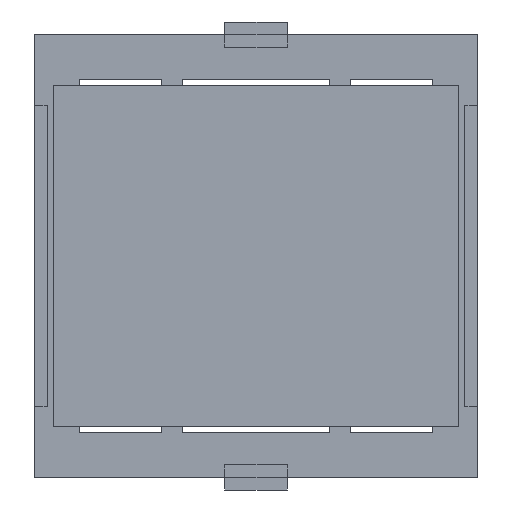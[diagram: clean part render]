
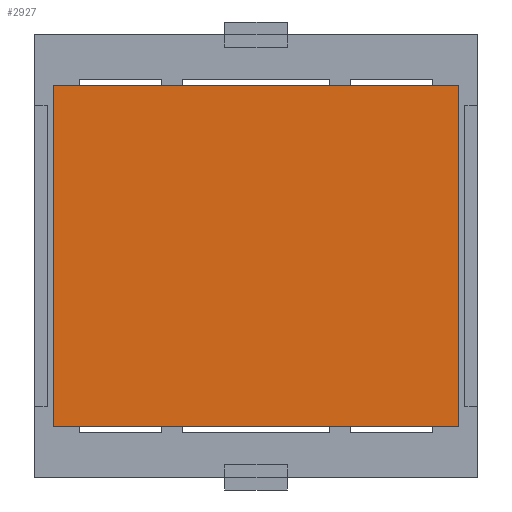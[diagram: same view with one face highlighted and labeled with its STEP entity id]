
A CAD part, front view. The second image highlights one B-rep face of the part: STEP entity #2927.
In plain terms, the highlighted planar face has unit normal (0, -1, 0).
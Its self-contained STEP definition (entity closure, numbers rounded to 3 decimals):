
#141 = DIRECTION ( 'NONE',  ( 0., 0., 1. ) ) ;
#200 = EDGE_CURVE ( 'NONE', #2446, #1814, #762, .T. ) ;
#238 = VECTOR ( 'NONE', #2705, 1000. ) ;
#305 = DIRECTION ( 'NONE',  ( 0., 0., -1. ) ) ;
#454 = CARTESIAN_POINT ( 'NONE',  ( 16.129, -0.127, -13.589 ) ) ;
#483 = VECTOR ( 'NONE', #4609, 1000. ) ;
#593 = ORIENTED_EDGE ( 'NONE', *, *, #1547, .F. ) ;
#762 = LINE ( 'NONE', #2186, #238 ) ;
#938 = DIRECTION ( 'NONE',  ( 0., 1., 0. ) ) ;
#977 = VERTEX_POINT ( 'NONE', #1617 ) ;
#1547 = EDGE_CURVE ( 'NONE', #1814, #2608, #5392, .T. ) ;
#1617 = CARTESIAN_POINT ( 'NONE',  ( 16.129, -0.127, 13.589 ) ) ;
#1631 = EDGE_CURVE ( 'NONE', #2608, #977, #3303, .T. ) ;
#1814 = VERTEX_POINT ( 'NONE', #4843 ) ;
#2186 = CARTESIAN_POINT ( 'NONE',  ( -16.129, -0.127, -13.589 ) ) ;
#2302 = VECTOR ( 'NONE', #3113, 1000. ) ;
#2424 = ORIENTED_EDGE ( 'NONE', *, *, #200, .F. ) ;
#2446 = VERTEX_POINT ( 'NONE', #454 ) ;
#2608 = VERTEX_POINT ( 'NONE', #5226 ) ;
#2666 = CARTESIAN_POINT ( 'NONE',  ( -16.129, -0.127, -13.589 ) ) ;
#2705 = DIRECTION ( 'NONE',  ( -1., 0., 0. ) ) ;
#2927 = ADVANCED_FACE ( 'NONE', ( #3695 ), #4748, .F. ) ;
#3059 = VECTOR ( 'NONE', #305, 1000. ) ;
#3113 = DIRECTION ( 'NONE',  ( 0., 0., 1. ) ) ;
#3303 = LINE ( 'NONE', #5547, #483 ) ;
#3695 = FACE_OUTER_BOUND ( 'NONE', #4435, .T. ) ;
#4014 = CARTESIAN_POINT ( 'NONE',  ( -16.129, -0.127, 13.589 ) ) ;
#4203 = LINE ( 'NONE', #4642, #3059 ) ;
#4435 = EDGE_LOOP ( 'NONE', ( #593, #2424, #4770, #4903 ) ) ;
#4609 = DIRECTION ( 'NONE',  ( 1., 0., 0. ) ) ;
#4642 = CARTESIAN_POINT ( 'NONE',  ( 16.129, -0.127, -13.589 ) ) ;
#4651 = EDGE_CURVE ( 'NONE', #977, #2446, #4203, .T. ) ;
#4748 = PLANE ( 'NONE',  #5407 ) ;
#4770 = ORIENTED_EDGE ( 'NONE', *, *, #4651, .F. ) ;
#4843 = CARTESIAN_POINT ( 'NONE',  ( -16.129, -0.127, -13.589 ) ) ;
#4903 = ORIENTED_EDGE ( 'NONE', *, *, #1631, .F. ) ;
#5226 = CARTESIAN_POINT ( 'NONE',  ( -16.129, -0.127, 13.589 ) ) ;
#5392 = LINE ( 'NONE', #2666, #2302 ) ;
#5407 = AXIS2_PLACEMENT_3D ( 'NONE', #4014, #938, #141 ) ;
#5547 = CARTESIAN_POINT ( 'NONE',  ( -16.129, -0.127, 13.589 ) ) ;
